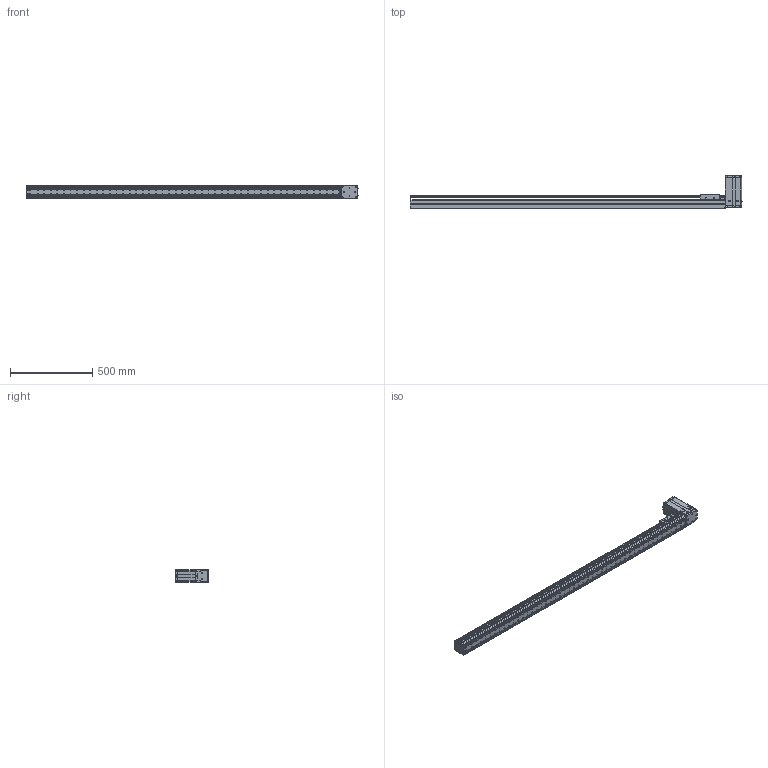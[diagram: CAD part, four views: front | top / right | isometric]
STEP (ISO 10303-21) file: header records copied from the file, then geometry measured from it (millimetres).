
FILE_DESCRIPTION((''),'2;1');
FILE_NAME('BE10_-BT-M_N-H0_IGS_PRT','2017-06-18T',(' '),(''),'PRO/ENGINEER BY PARAMETRIC TECHNOLOGY CORPORATION, 2015030','PRO/ENGINEER BY PARAMETRIC TECHNOLOGY CORPORATION, 2015030','');
FILE_SCHEMA(('CONFIG_CONTROL_DESIGN'));
Products named in the file (1): BE10_-BT-M_N-H0_IGS_PRT
Bounding box: 2020.8 x 204.72 x 78 mm (x, y, z)
Volume: 2639118.5 mm3; surface area: 1872465.3 mm2
Topology: 5 solids, 173 shells, 2344 faces, 6412 edges, 4266 vertices
Faces by surface type: cylinder 1112, plane 1069, cone 107, sphere 28, torus 25, bspline 3
Entity records: 76788 total; most frequent: CARTESIAN_POINT 15916, DIRECTION 12962, ORIENTED_EDGE 12044, EDGE_CURVE 6348, AXIS2_PLACEMENT_3D 4757, VERTEX_POINT 4265, VECTOR 3448, LINE 3448
